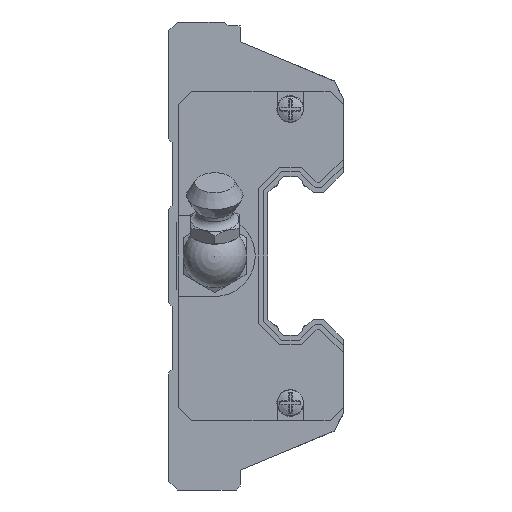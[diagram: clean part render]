
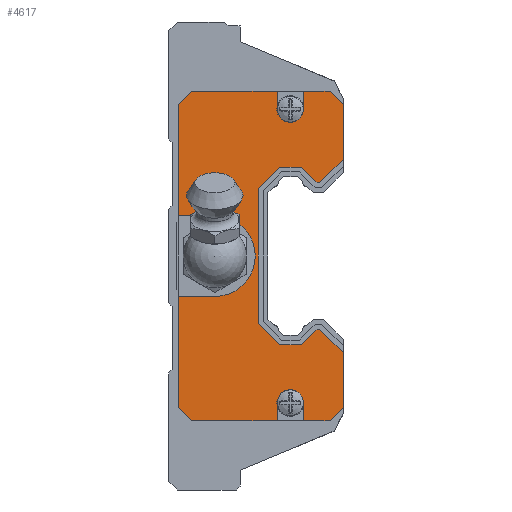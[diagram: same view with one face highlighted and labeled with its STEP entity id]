
A CAD part, left-side view. The second image highlights one B-rep face of the part: STEP entity #4617.
In plain terms, the highlighted planar face has unit normal (-1, 0, 0) as drawn and (1, 0, 0) by its records, which use the part's own axes.
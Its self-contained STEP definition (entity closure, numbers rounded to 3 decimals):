
#4182 = EDGE_CURVE('',#4183,#4185,#4187,.T.);
#4183 = VERTEX_POINT('',#4184);
#4184 = CARTESIAN_POINT('',(2.,14.319,-20.8));
#4185 = VERTEX_POINT('',#4186);
#4186 = CARTESIAN_POINT('',(2.,14.319,-18.5));
#4187 = LINE('',#4188,#4189);
#4188 = CARTESIAN_POINT('',(2.,14.319,0.));
#4189 = VECTOR('',#4190,1.);
#4190 = DIRECTION('',(0.,0.,1.));
#4233 = VERTEX_POINT('',#4234);
#4234 = CARTESIAN_POINT('',(2.,11.021,-18.5));
#4240 = EDGE_CURVE('',#4185,#4233,#4241,.T.);
#4241 = CIRCLE('',#4242,1.649);
#4242 = AXIS2_PLACEMENT_3D('',#4243,#4244,#4245);
#4243 = CARTESIAN_POINT('',(2.,12.67,-18.5));
#4244 = DIRECTION('',(1.,0.,0.));
#4245 = DIRECTION('',(0.,0.,-1.));
#4569 = VERTEX_POINT('',#4570);
#4570 = CARTESIAN_POINT('',(2.,6.,12.197));
#4576 = EDGE_CURVE('',#4577,#4569,#4579,.T.);
#4577 = VERTEX_POINT('',#4578);
#4578 = CARTESIAN_POINT('',(2.,6.,19.15));
#4579 = LINE('',#4580,#4581);
#4580 = CARTESIAN_POINT('',(2.,6.,19.15));
#4581 = VECTOR('',#4582,1.);
#4582 = DIRECTION('',(0.,0.,-1.));
#4617 = ADVANCED_FACE('',(#4618),#4853,.T.);
#4618 = FACE_BOUND('',#4619,.T.);
#4619 = EDGE_LOOP('',(#4620,#4628,#4636,#4644,#4652,#4660,#4668,#4676,
    #4684,#4692,#4700,#4708,#4716,#4724,#4732,#4738,#4739,#4740,#4748,
    #4756,#4764,#4772,#4781,#4789,#4797,#4805,#4813,#4821,#4830,#4838,
    #4846,#4852));
#4620 = ORIENTED_EDGE('',*,*,#4621,.F.);
#4621 = EDGE_CURVE('',#4622,#4569,#4624,.T.);
#4622 = VERTEX_POINT('',#4623);
#4623 = CARTESIAN_POINT('',(2.,8.992,9.205));
#4624 = LINE('',#4625,#4626);
#4625 = CARTESIAN_POINT('',(2.,8.992,9.205));
#4626 = VECTOR('',#4627,1.);
#4627 = DIRECTION('',(0.,-0.707,0.707));
#4628 = ORIENTED_EDGE('',*,*,#4629,.F.);
#4629 = EDGE_CURVE('',#4630,#4622,#4632,.T.);
#4630 = VERTEX_POINT('',#4631);
#4631 = CARTESIAN_POINT('',(2.,9.303,9.205));
#4632 = LINE('',#4633,#4634);
#4633 = CARTESIAN_POINT('',(2.,9.303,9.205));
#4634 = VECTOR('',#4635,1.);
#4635 = DIRECTION('',(0.,-1.,0.));
#4636 = ORIENTED_EDGE('',*,*,#4637,.F.);
#4637 = EDGE_CURVE('',#4638,#4630,#4640,.T.);
#4638 = VERTEX_POINT('',#4639);
#4639 = CARTESIAN_POINT('',(2.,11.298,11.2));
#4640 = LINE('',#4641,#4642);
#4641 = CARTESIAN_POINT('',(2.,11.298,11.2));
#4642 = VECTOR('',#4643,1.);
#4643 = DIRECTION('',(0.,-0.707,-0.707));
#4644 = ORIENTED_EDGE('',*,*,#4645,.F.);
#4645 = EDGE_CURVE('',#4646,#4638,#4648,.T.);
#4646 = VERTEX_POINT('',#4647);
#4647 = CARTESIAN_POINT('',(2.,14.002,11.2));
#4648 = LINE('',#4649,#4650);
#4649 = CARTESIAN_POINT('',(2.,14.002,11.2));
#4650 = VECTOR('',#4651,1.);
#4651 = DIRECTION('',(0.,-1.,0.));
#4652 = ORIENTED_EDGE('',*,*,#4653,.F.);
#4653 = EDGE_CURVE('',#4654,#4646,#4656,.T.);
#4654 = VERTEX_POINT('',#4655);
#4655 = CARTESIAN_POINT('',(2.,16.7,8.502));
#4656 = LINE('',#4657,#4658);
#4657 = CARTESIAN_POINT('',(2.,16.7,8.502));
#4658 = VECTOR('',#4659,1.);
#4659 = DIRECTION('',(0.,-0.707,0.707));
#4660 = ORIENTED_EDGE('',*,*,#4661,.F.);
#4661 = EDGE_CURVE('',#4662,#4654,#4664,.T.);
#4662 = VERTEX_POINT('',#4663);
#4663 = CARTESIAN_POINT('',(2.,16.7,-8.502));
#4664 = LINE('',#4665,#4666);
#4665 = CARTESIAN_POINT('',(2.,16.7,-8.502));
#4666 = VECTOR('',#4667,1.);
#4667 = DIRECTION('',(0.,0.,1.));
#4668 = ORIENTED_EDGE('',*,*,#4669,.F.);
#4669 = EDGE_CURVE('',#4670,#4662,#4672,.T.);
#4670 = VERTEX_POINT('',#4671);
#4671 = CARTESIAN_POINT('',(2.,14.002,-11.2));
#4672 = LINE('',#4673,#4674);
#4673 = CARTESIAN_POINT('',(2.,14.002,-11.2));
#4674 = VECTOR('',#4675,1.);
#4675 = DIRECTION('',(0.,0.707,0.707));
#4676 = ORIENTED_EDGE('',*,*,#4677,.F.);
#4677 = EDGE_CURVE('',#4678,#4670,#4680,.T.);
#4678 = VERTEX_POINT('',#4679);
#4679 = CARTESIAN_POINT('',(2.,11.298,-11.2));
#4680 = LINE('',#4681,#4682);
#4681 = CARTESIAN_POINT('',(2.,11.298,-11.2));
#4682 = VECTOR('',#4683,1.);
#4683 = DIRECTION('',(0.,1.,0.));
#4684 = ORIENTED_EDGE('',*,*,#4685,.F.);
#4685 = EDGE_CURVE('',#4686,#4678,#4688,.T.);
#4686 = VERTEX_POINT('',#4687);
#4687 = CARTESIAN_POINT('',(2.,9.303,-9.205));
#4688 = LINE('',#4689,#4690);
#4689 = CARTESIAN_POINT('',(2.,9.303,-9.205));
#4690 = VECTOR('',#4691,1.);
#4691 = DIRECTION('',(0.,0.707,-0.707));
#4692 = ORIENTED_EDGE('',*,*,#4693,.F.);
#4693 = EDGE_CURVE('',#4694,#4686,#4696,.T.);
#4694 = VERTEX_POINT('',#4695);
#4695 = CARTESIAN_POINT('',(2.,8.992,-9.205));
#4696 = LINE('',#4697,#4698);
#4697 = CARTESIAN_POINT('',(2.,8.992,-9.205));
#4698 = VECTOR('',#4699,1.);
#4699 = DIRECTION('',(0.,1.,0.));
#4700 = ORIENTED_EDGE('',*,*,#4701,.F.);
#4701 = EDGE_CURVE('',#4702,#4694,#4704,.T.);
#4702 = VERTEX_POINT('',#4703);
#4703 = CARTESIAN_POINT('',(2.,6.,-12.197));
#4704 = LINE('',#4705,#4706);
#4705 = CARTESIAN_POINT('',(2.,6.,-12.197));
#4706 = VECTOR('',#4707,1.);
#4707 = DIRECTION('',(0.,0.707,0.707));
#4708 = ORIENTED_EDGE('',*,*,#4709,.T.);
#4709 = EDGE_CURVE('',#4702,#4710,#4712,.T.);
#4710 = VERTEX_POINT('',#4711);
#4711 = CARTESIAN_POINT('',(2.,6.,-19.15));
#4712 = LINE('',#4713,#4714);
#4713 = CARTESIAN_POINT('',(2.,6.,19.15));
#4714 = VECTOR('',#4715,1.);
#4715 = DIRECTION('',(0.,0.,-1.));
#4716 = ORIENTED_EDGE('',*,*,#4717,.T.);
#4717 = EDGE_CURVE('',#4710,#4718,#4720,.T.);
#4718 = VERTEX_POINT('',#4719);
#4719 = CARTESIAN_POINT('',(2.,7.65,-20.8));
#4720 = LINE('',#4721,#4722);
#4721 = CARTESIAN_POINT('',(2.,6.,-19.15));
#4722 = VECTOR('',#4723,1.);
#4723 = DIRECTION('',(0.,0.707,-0.707));
#4724 = ORIENTED_EDGE('',*,*,#4725,.T.);
#4725 = EDGE_CURVE('',#4718,#4726,#4728,.T.);
#4726 = VERTEX_POINT('',#4727);
#4727 = CARTESIAN_POINT('',(2.,11.021,-20.8));
#4728 = LINE('',#4729,#4730);
#4729 = CARTESIAN_POINT('',(2.,7.65,-20.8));
#4730 = VECTOR('',#4731,1.);
#4731 = DIRECTION('',(0.,1.,0.));
#4732 = ORIENTED_EDGE('',*,*,#4733,.F.);
#4733 = EDGE_CURVE('',#4233,#4726,#4734,.T.);
#4734 = LINE('',#4735,#4736);
#4735 = CARTESIAN_POINT('',(2.,11.021,-18.5));
#4736 = VECTOR('',#4737,1.);
#4737 = DIRECTION('',(0.,0.,-1.));
#4738 = ORIENTED_EDGE('',*,*,#4240,.F.);
#4739 = ORIENTED_EDGE('',*,*,#4182,.F.);
#4740 = ORIENTED_EDGE('',*,*,#4741,.T.);
#4741 = EDGE_CURVE('',#4183,#4742,#4744,.T.);
#4742 = VERTEX_POINT('',#4743);
#4743 = CARTESIAN_POINT('',(2.,25.15,-20.8));
#4744 = LINE('',#4745,#4746);
#4745 = CARTESIAN_POINT('',(2.,7.65,-20.8));
#4746 = VECTOR('',#4747,1.);
#4747 = DIRECTION('',(0.,1.,0.));
#4748 = ORIENTED_EDGE('',*,*,#4749,.T.);
#4749 = EDGE_CURVE('',#4742,#4750,#4752,.T.);
#4750 = VERTEX_POINT('',#4751);
#4751 = CARTESIAN_POINT('',(2.,26.8,-19.15));
#4752 = LINE('',#4753,#4754);
#4753 = CARTESIAN_POINT('',(2.,25.15,-20.8));
#4754 = VECTOR('',#4755,1.);
#4755 = DIRECTION('',(0.,0.707,0.707));
#4756 = ORIENTED_EDGE('',*,*,#4757,.T.);
#4757 = EDGE_CURVE('',#4750,#4758,#4760,.T.);
#4758 = VERTEX_POINT('',#4759);
#4759 = CARTESIAN_POINT('',(2.,26.8,-5.1));
#4760 = LINE('',#4761,#4762);
#4761 = CARTESIAN_POINT('',(2.,26.8,-19.15));
#4762 = VECTOR('',#4763,1.);
#4763 = DIRECTION('',(0.,0.,1.));
#4764 = ORIENTED_EDGE('',*,*,#4765,.F.);
#4765 = EDGE_CURVE('',#4766,#4758,#4768,.T.);
#4766 = VERTEX_POINT('',#4767);
#4767 = CARTESIAN_POINT('',(2.,22.2,-5.1));
#4768 = LINE('',#4769,#4770);
#4769 = CARTESIAN_POINT('',(2.,22.2,-5.1));
#4770 = VECTOR('',#4771,1.);
#4771 = DIRECTION('',(0.,1.,0.));
#4772 = ORIENTED_EDGE('',*,*,#4773,.F.);
#4773 = EDGE_CURVE('',#4774,#4766,#4776,.T.);
#4774 = VERTEX_POINT('',#4775);
#4775 = CARTESIAN_POINT('',(2.,22.2,5.1));
#4776 = CIRCLE('',#4777,5.1);
#4777 = AXIS2_PLACEMENT_3D('',#4778,#4779,#4780);
#4778 = CARTESIAN_POINT('',(2.,22.2,0.));
#4779 = DIRECTION('',(1.,0.,0.));
#4780 = DIRECTION('',(0.,0.,-1.));
#4781 = ORIENTED_EDGE('',*,*,#4782,.F.);
#4782 = EDGE_CURVE('',#4783,#4774,#4785,.T.);
#4783 = VERTEX_POINT('',#4784);
#4784 = CARTESIAN_POINT('',(2.,26.8,5.1));
#4785 = LINE('',#4786,#4787);
#4786 = CARTESIAN_POINT('',(2.,26.8,5.1));
#4787 = VECTOR('',#4788,1.);
#4788 = DIRECTION('',(0.,-1.,0.));
#4789 = ORIENTED_EDGE('',*,*,#4790,.T.);
#4790 = EDGE_CURVE('',#4783,#4791,#4793,.T.);
#4791 = VERTEX_POINT('',#4792);
#4792 = CARTESIAN_POINT('',(2.,26.8,19.15));
#4793 = LINE('',#4794,#4795);
#4794 = CARTESIAN_POINT('',(2.,26.8,-19.15));
#4795 = VECTOR('',#4796,1.);
#4796 = DIRECTION('',(0.,0.,1.));
#4797 = ORIENTED_EDGE('',*,*,#4798,.T.);
#4798 = EDGE_CURVE('',#4791,#4799,#4801,.T.);
#4799 = VERTEX_POINT('',#4800);
#4800 = CARTESIAN_POINT('',(2.,25.15,20.8));
#4801 = LINE('',#4802,#4803);
#4802 = CARTESIAN_POINT('',(2.,26.8,19.15));
#4803 = VECTOR('',#4804,1.);
#4804 = DIRECTION('',(0.,-0.707,0.707));
#4805 = ORIENTED_EDGE('',*,*,#4806,.T.);
#4806 = EDGE_CURVE('',#4799,#4807,#4809,.T.);
#4807 = VERTEX_POINT('',#4808);
#4808 = CARTESIAN_POINT('',(2.,14.319,20.8));
#4809 = LINE('',#4810,#4811);
#4810 = CARTESIAN_POINT('',(2.,25.15,20.8));
#4811 = VECTOR('',#4812,1.);
#4812 = DIRECTION('',(0.,-1.,0.));
#4813 = ORIENTED_EDGE('',*,*,#4814,.F.);
#4814 = EDGE_CURVE('',#4815,#4807,#4817,.T.);
#4815 = VERTEX_POINT('',#4816);
#4816 = CARTESIAN_POINT('',(2.,14.319,18.5));
#4817 = LINE('',#4818,#4819);
#4818 = CARTESIAN_POINT('',(2.,14.319,18.5));
#4819 = VECTOR('',#4820,1.);
#4820 = DIRECTION('',(0.,0.,1.));
#4821 = ORIENTED_EDGE('',*,*,#4822,.F.);
#4822 = EDGE_CURVE('',#4823,#4815,#4825,.T.);
#4823 = VERTEX_POINT('',#4824);
#4824 = CARTESIAN_POINT('',(2.,11.021,18.5));
#4825 = CIRCLE('',#4826,1.649);
#4826 = AXIS2_PLACEMENT_3D('',#4827,#4828,#4829);
#4827 = CARTESIAN_POINT('',(2.,12.67,18.5));
#4828 = DIRECTION('',(1.,0.,0.));
#4829 = DIRECTION('',(0.,0.,-1.));
#4830 = ORIENTED_EDGE('',*,*,#4831,.F.);
#4831 = EDGE_CURVE('',#4832,#4823,#4834,.T.);
#4832 = VERTEX_POINT('',#4833);
#4833 = CARTESIAN_POINT('',(2.,11.021,20.8));
#4834 = LINE('',#4835,#4836);
#4835 = CARTESIAN_POINT('',(2.,11.021,20.8));
#4836 = VECTOR('',#4837,1.);
#4837 = DIRECTION('',(0.,0.,-1.));
#4838 = ORIENTED_EDGE('',*,*,#4839,.T.);
#4839 = EDGE_CURVE('',#4832,#4840,#4842,.T.);
#4840 = VERTEX_POINT('',#4841);
#4841 = CARTESIAN_POINT('',(2.,7.65,20.8));
#4842 = LINE('',#4843,#4844);
#4843 = CARTESIAN_POINT('',(2.,25.15,20.8));
#4844 = VECTOR('',#4845,1.);
#4845 = DIRECTION('',(0.,-1.,0.));
#4846 = ORIENTED_EDGE('',*,*,#4847,.T.);
#4847 = EDGE_CURVE('',#4840,#4577,#4848,.T.);
#4848 = LINE('',#4849,#4850);
#4849 = CARTESIAN_POINT('',(2.,7.65,20.8));
#4850 = VECTOR('',#4851,1.);
#4851 = DIRECTION('',(0.,-0.707,-0.707));
#4852 = ORIENTED_EDGE('',*,*,#4576,.T.);
#4853 = PLANE('',#4854);
#4854 = AXIS2_PLACEMENT_3D('',#4855,#4856,#4857);
#4855 = CARTESIAN_POINT('',(2.,0.,0.));
#4856 = DIRECTION('',(1.,0.,0.));
#4857 = DIRECTION('',(0.,0.,1.));
